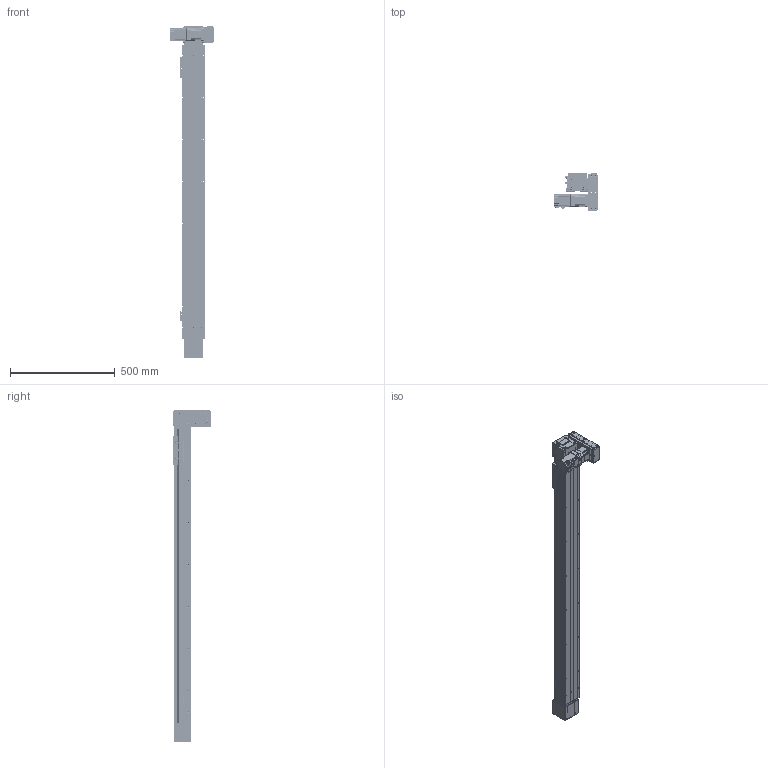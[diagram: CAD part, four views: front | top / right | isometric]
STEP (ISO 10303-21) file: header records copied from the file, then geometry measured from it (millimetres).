
FILE_DESCRIPTION(/* description */ ('MANUFACTURE'),/* implementation_level */ '2;1');
FILE_NAME(/* name */ '\\192.168.0.160\disk1\HAN SHIN Master\B-설계부문\C-표준\B-2024년\BC02-표준도면\+로봇 개선표준도면\홈페이지 표준 도면\홈페이지 최종 작업 폴더\3D\HSB\HSB90\DR\HSB90-DR2G-N-1200-L.stp',/* time_stamp */ '2025-04-25T16:24:50+09:00',/* author */ ('user'),/* organization */ (''),/* preprocessor_version */ 'ST-DEVELOPER v18.1',/* originating_system */ 'Autodesk Inventor 2022',/* authorisation */ 'LIP');
FILE_SCHEMA (('CONFIG_CONTROL_DESIGN'));
Products named in the file (31): HSB90-DR2G-N-0500-L; HSB90 BASE; HS90 TABLE-SR20W; HSB90 FRONT HOUSING (Connecting Shaft); HSB90 REAR HOUSING; HSB90 COVER; SIDE COVER; UPCOVER; HSB55 TENSION PLATE; HG90STOPPER - 27L; HSB90 REAR PULLEY; NSK_6903; HSB55 REAR SHAFT; HSB55 ACRYL COVER; PGX62-H-1_3; hg-kr23_; MOTOR PLATE-200W(MITSUBISHI); HSB90 END COVER; HSB160 BEARING OVER; HR65-BELT COVER-COVER3; HR75-LR-BELT COVER(200W); HSB75 D MOTOR PLATE-N; HR75-BELT COVER-COVER; HR75-BELT COVER-COVER2; HSB160 SHAFT-1; NSK_6006; HR120 SENSOR DOG; SENSOR BRK(EE-SX674A); EE_SX674A; hsr_ftht_A-M6F_grease_nipple_joint; NIPPLE CAP(신규)
Assembly tree (48 placements, depth 2):
  HSB90-DR2G-N-0500-L
    HSB90 BASE
    HS90 TABLE-SR20W
    HSB90 FRONT HOUSING (Connecting Shaft)
    HSB90 COVER  x2
    HSB90 REAR HOUSING
    SIDE COVER  x2
    UPCOVER
    HSB55 TENSION PLATE  x2
    HG90STOPPER - 27L  x4
    HSB90 REAR PULLEY
    NSK_6903  x2
    HSB55 REAR SHAFT
    HSB55 ACRYL COVER  x4
    PGX62-H-1_3
    hg-kr23_
    MOTOR PLATE-200W(MITSUBISHI)
    HSB90 END COVER
    HSB160 BEARING OVER
    HR75-BELT COVER-COVER2  x2
    HR65-BELT COVER-COVER3
    HR75-LR-BELT COVER(200W)
    HSB75 D MOTOR PLATE-N
    HR75-BELT COVER-COVER
    HSB160 SHAFT-1
    NSK_6006  x2
    SENSOR BRK(EE-SX674A)  x3
    EE_SX674A  x3
    HR120 SENSOR DOG
    hsr_ftht_A-M6F_grease_nipple_joint  x2
    NIPPLE CAP(신규)  x2
Bounding box: 206.6 x 181.5 x 1585 mm (x, y, z)
Volume: 5211674.8 mm3; surface area: 1946416.2 mm2
Topology: 123 solids, 123 shells, 6279 faces, 17408 edges, 11485 vertices
Faces by surface type: plane 4729, cylinder 1124, cone 288, sphere 70, torus 49, bspline 19
Full cylindrical faces by diameter (mm): 2.013 x4, 2.459 x76, 3.242 x50, 3.3 x5, 3.4 x22, 3.5 x22, 4 x1, 4.134 x48, 4.2 x10, 4.5 x34, 4.917 x20, 5 x24, 5.5 x42, 5.6 x10, 5.8 x4, 5.9 x8, 6 x10, 6.5 x4, 7 x1, 8 x13, 8.5 x4, 9 x4, 9.5 x34, 14 x3, 14.2 x1, 15 x5, 16 x2, 16.2 x2, 17 x7, 19.8 x3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
Entity records: 142021 total; most frequent: CARTESIAN_POINT 27959, ORIENTED_EDGE 23630, DIRECTION 22779, EDGE_CURVE 11815, LINE 8995, VECTOR 8995, VERTEX_POINT 7874, AXIS2_PLACEMENT_3D 6892
